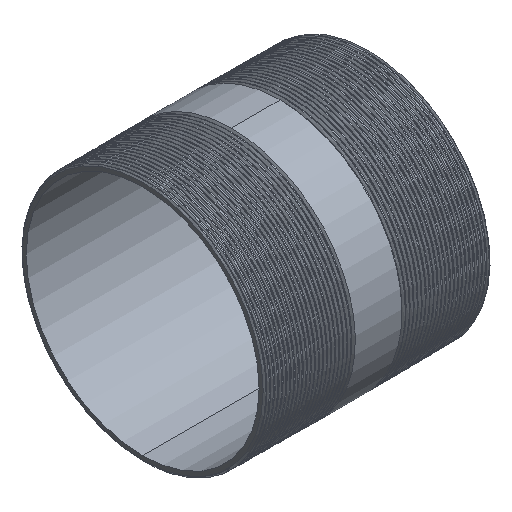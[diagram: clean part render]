
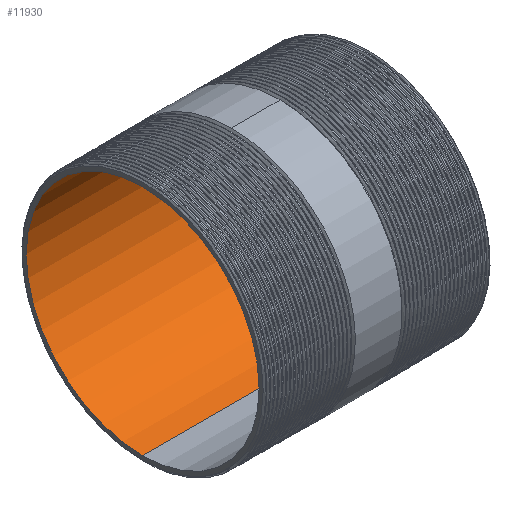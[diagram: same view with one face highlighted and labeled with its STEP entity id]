
A CAD part, isometric view. The second image highlights one B-rep face of the part: STEP entity #11930.
In plain terms, the highlighted cylindrical face has radius 36.05 mm (diameter 72.1 mm), a partial arc.
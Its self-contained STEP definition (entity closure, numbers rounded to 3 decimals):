
#187 = DIRECTION ( 'NONE',  ( -1., 0., 0. ) ) ;
#585 = CARTESIAN_POINT ( 'NONE',  ( -149.494, 0., 36.05 ) ) ;
#1271 = CARTESIAN_POINT ( 'NONE',  ( 35., 0., 0. ) ) ;
#1816 = LINE ( 'NONE', #585, #8109 ) ;
#2254 = VERTEX_POINT ( 'NONE', #18262 ) ;
#3325 = CYLINDRICAL_SURFACE ( 'NONE', #6937, 36.05 ) ;
#5141 = EDGE_CURVE ( 'NONE', #11042, #9010, #6147, .T. ) ;
#6147 = CIRCLE ( 'NONE', #9057, 36.05 ) ;
#6937 = AXIS2_PLACEMENT_3D ( 'NONE', #12655, #18835, #10617 ) ;
#6994 = CARTESIAN_POINT ( 'NONE',  ( -149.494, 0., -36.05 ) ) ;
#6995 = EDGE_CURVE ( 'NONE', #2254, #11042, #1816, .T. ) ;
#7530 = DIRECTION ( 'NONE',  ( -1., 0., 0. ) ) ;
#7592 = EDGE_LOOP ( 'NONE', ( #10655, #15112, #18134, #10844 ) ) ;
#7635 = DIRECTION ( 'NONE',  ( 0., 0., 1. ) ) ;
#7746 = VERTEX_POINT ( 'NONE', #12485 ) ;
#8109 = VECTOR ( 'NONE', #187, 1000. ) ;
#8228 = CIRCLE ( 'NONE', #15689, 36.05 ) ;
#8347 = EDGE_CURVE ( 'NONE', #2254, #7746, #8228, .T. ) ;
#8890 = VECTOR ( 'NONE', #19459, 1000. ) ;
#9010 = VERTEX_POINT ( 'NONE', #10152 ) ;
#9057 = AXIS2_PLACEMENT_3D ( 'NONE', #10567, #7530, #7635 ) ;
#10152 = CARTESIAN_POINT ( 'NONE',  ( -35., 0., -36.05 ) ) ;
#10567 = CARTESIAN_POINT ( 'NONE',  ( -35., 0., 0. ) ) ;
#10598 = DIRECTION ( 'NONE',  ( 0., 0., 1. ) ) ;
#10617 = DIRECTION ( 'NONE',  ( 0., 0., 1. ) ) ;
#10655 = ORIENTED_EDGE ( 'NONE', *, *, #19124, .F. ) ;
#10844 = ORIENTED_EDGE ( 'NONE', *, *, #5141, .T. ) ;
#11042 = VERTEX_POINT ( 'NONE', #18254 ) ;
#11930 = ADVANCED_FACE ( 'NONE', ( #17214 ), #3325, .F. ) ;
#12122 = DIRECTION ( 'NONE',  ( -1., 0., 0. ) ) ;
#12485 = CARTESIAN_POINT ( 'NONE',  ( 35., 0., -36.05 ) ) ;
#12655 = CARTESIAN_POINT ( 'NONE',  ( -149.494, 0., 0. ) ) ;
#13479 = LINE ( 'NONE', #6994, #8890 ) ;
#15112 = ORIENTED_EDGE ( 'NONE', *, *, #8347, .F. ) ;
#15689 = AXIS2_PLACEMENT_3D ( 'NONE', #1271, #12122, #10598 ) ;
#17214 = FACE_OUTER_BOUND ( 'NONE', #7592, .T. ) ;
#18134 = ORIENTED_EDGE ( 'NONE', *, *, #6995, .T. ) ;
#18254 = CARTESIAN_POINT ( 'NONE',  ( -35., 0., 36.05 ) ) ;
#18262 = CARTESIAN_POINT ( 'NONE',  ( 35., 0., 36.05 ) ) ;
#18835 = DIRECTION ( 'NONE',  ( -1., 0., 0. ) ) ;
#19124 = EDGE_CURVE ( 'NONE', #7746, #9010, #13479, .T. ) ;
#19459 = DIRECTION ( 'NONE',  ( -1., 0., 0. ) ) ;
